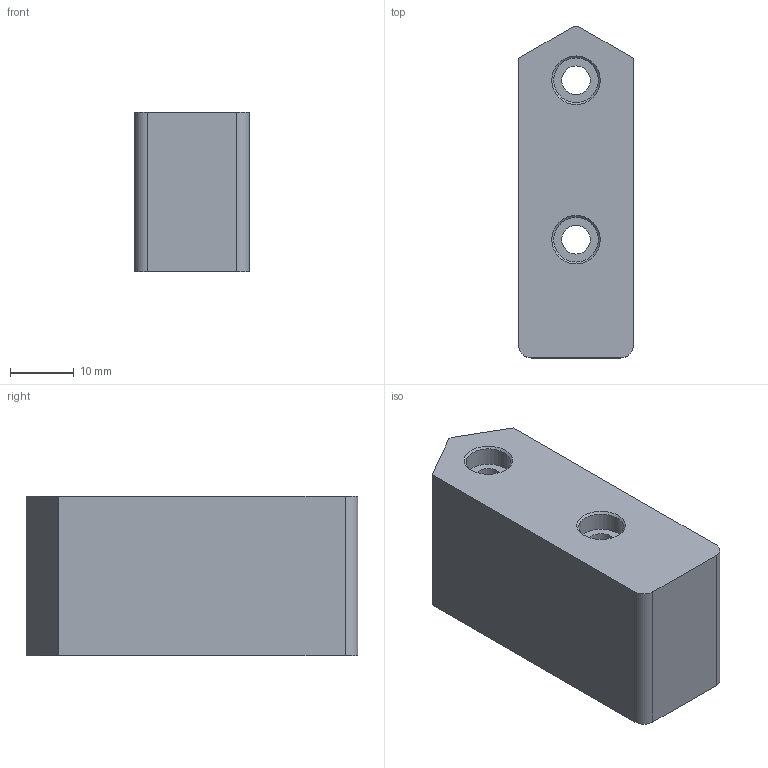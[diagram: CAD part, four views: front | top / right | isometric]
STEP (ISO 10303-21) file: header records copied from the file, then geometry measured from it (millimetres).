
FILE_DESCRIPTION(/* description */ ('Aufsatzbacken voll'),/* implementation_level */ '2;1');
FILE_NAME(/* name */ 'DBF160_00-20 Aufsatzbacken voll.stp',/* time_stamp */ '2025-12-09T14:20:39+01:00',/* author */ ('MKoch'),/* organization */ (''),/* preprocessor_version */ 'ST-DEVELOPER v20.1',/* originating_system */ 'Autodesk Inventor 2026',/* authorisation */ '');
FILE_SCHEMA (('AUTOMOTIVE_DESIGN { 1 0 10303 214 3 1 1 }'));
Length unit declared in the file: millimetre
Products named in the file (1): DBF160:00-20
Bounding box: 18 x 52 x 25 mm (x, y, z)
Volume: 19935.8 mm3; surface area: 6178.2 mm2
Topology: 1 solids, 1 shells, 22 faces, 48 edges, 32 vertices
Faces by surface type: plane 12, cylinder 8, cone 2
Full cylindrical faces by diameter (mm): 4.5 x2, 7 x2, 8 x2
Entity records: 663 total; most frequent: DIRECTION 114, CARTESIAN_POINT 103, ORIENTED_EDGE 96, EDGE_CURVE 48, AXIS2_PLACEMENT_3D 43, VERTEX_POINT 32, EDGE_LOOP 30, LINE 28
